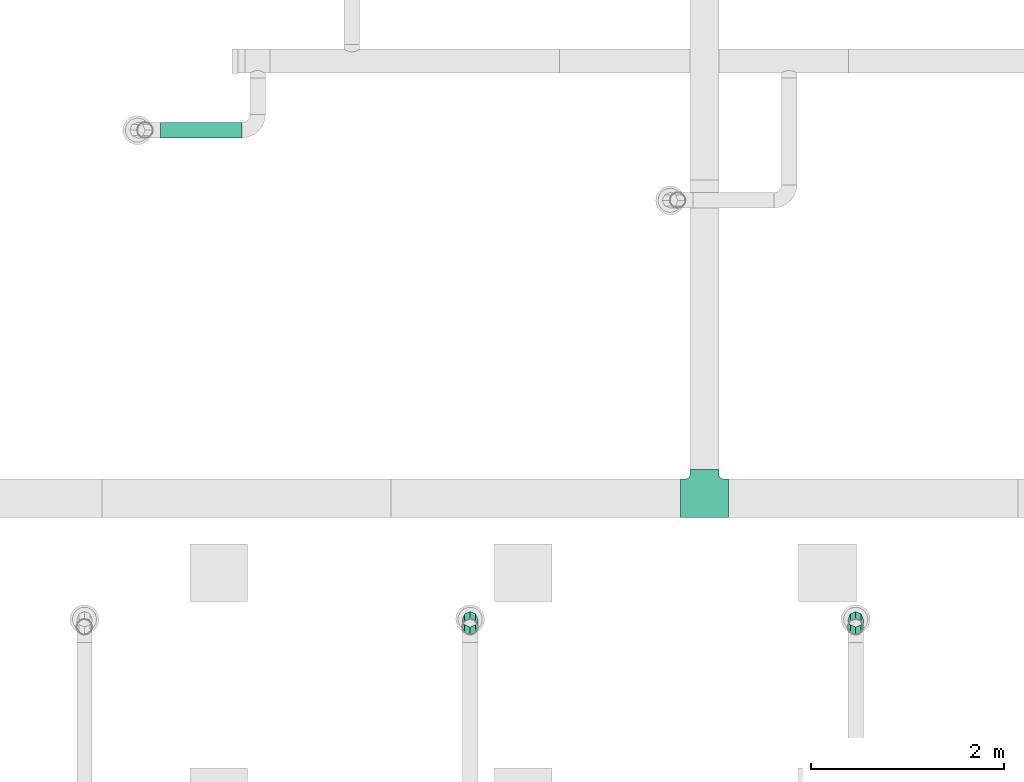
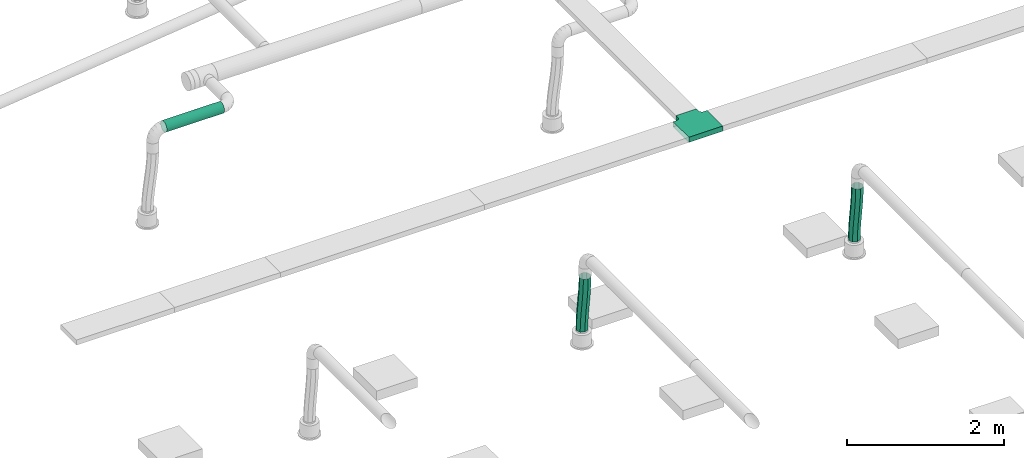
# One storey, part 238 of 374: 3 flow segments, 1 distribution element.
"""IFC2X3 building model written with IfcOpenShell, lengths in metres."""

from ifc_helpers import new_model, si_unit, direction, origin, place, context, subcontext, project, spatial, open_shell, surface_model, source, transform, mapped, element, save


model = new_model("IFC2X3")

# Units and contexts
model_context = context("Model", 3, precision=1e-05, world=origin(), true_north=direction((-0.4480736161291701, 0.8939966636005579)))
body_context = subcontext(model_context, "Body", "Model", "MODEL_VIEW")
ifc_project = project(units=[si_unit("LENGTHUNIT", "METRE"), si_unit("AREAUNIT", "SQUARE_METRE"), si_unit("VOLUMEUNIT", "CUBIC_METRE"), si_unit("PLANEANGLEUNIT", "RADIAN"), si_unit("THERMODYNAMICTEMPERATUREUNIT", "KELVIN"), si_unit("MASSUNIT", "GRAM", prefix="KILO"), si_unit("TIMEUNIT", "SECOND")], contexts=[model_context])

# Site, building, storey
site_placement = place(None, origin())
site = spatial("IfcSite", under=ifc_project, at=site_placement, Name="Site 1", CompositionType="ELEMENT")
building_placement = place(site_placement, origin())
building = spatial("IfcBuilding", under=site, at=building_placement, Name="Undefined", CompositionType="ELEMENT")
storey_placement = place(building_placement, origin())
storey = spatial("IfcBuildingStorey", under=building, at=storey_placement, Name="Rez de chauss\x8ee", CompositionType="ELEMENT", Elevation=0.0)

# Flow segments
shared_shape_1 = source(origin(), body_context, "Body", "SurfaceModel", [
    surface_model("IfcFaceBasedSurfaceModel", [(0.0942570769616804, 1.776356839e-15, 1.304512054e-15), (0.05356602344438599, 0.04575228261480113, 1.304512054e-15), (0.0, 0.0, 0.0), (0.03894014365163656, -0.04725143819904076, -1.1508330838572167e-06), (-0.05541274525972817, -0.04404153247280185, 0.0010358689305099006), (-0.01799365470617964, -0.0925064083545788, 0.0010617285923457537), (-0.11243304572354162, -0.08679100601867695, 0.002911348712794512), (-0.07622094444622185, -0.13616420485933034, 0.002975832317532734), (-0.17075714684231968, -0.12862219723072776, 0.005426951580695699), (-0.1354183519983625, -0.1786241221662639, 0.00552835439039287), (-0.23007333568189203, -0.16991460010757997, 0.008379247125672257), (-0.19526250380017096, -0.22028545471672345, 0.008506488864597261), (-0.290064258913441, -0.21105507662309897, 0.011560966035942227), (-0.2554300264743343, -0.2615474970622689, 0.01169742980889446), (-0.35040838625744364, -0.2524386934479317, 0.014761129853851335), (-0.3155975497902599, -0.3028095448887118, 0.014888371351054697), (-0.4107805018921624, -0.29446896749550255, 0.01776510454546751), (-0.3754417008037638, -0.344470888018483, 0.017866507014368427), (-0.4708512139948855, -0.337557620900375, 0.02035454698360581), (-0.4346391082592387, -0.3869308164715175, 0.02041903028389), (-0.5302854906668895, -0.3821237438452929, 0.02230727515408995), (-0.4928664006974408, -0.43058862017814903, 0.02233313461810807), (-0.5887403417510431, -0.42859214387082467, 0.02339716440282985), (-0.549800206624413, -0.4758435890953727, 0.02339601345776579), (-0.645808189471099, -0.47734271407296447, 0.023394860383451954), (-0.6051171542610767, -0.5230950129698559, 0.02339486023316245), (0.02506153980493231, 0.07834277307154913, -0.04329419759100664), (-0.027779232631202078, 0.03321146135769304, -0.043293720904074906), (-0.08256193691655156, -0.01032744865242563, -0.04226904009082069), (-0.13908228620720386, -0.05270068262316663, -0.04040955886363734), (-0.19704465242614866, -0.09427144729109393, -0.03790924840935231), (-0.256142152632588, -0.13541103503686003, -0.034967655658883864), (-0.31605992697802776, -0.17650115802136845, -0.031789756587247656), (-0.37647720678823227, -0.217935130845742, -0.028585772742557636), (-0.43706801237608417, -0.2601182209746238, -0.02557109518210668), (-0.49750045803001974, -0.30346729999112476, -0.022966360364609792), (-0.557434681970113, -0.3484096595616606, -0.020997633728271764), (-0.6165195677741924, -0.39538067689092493, -0.01989655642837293), (-0.6743126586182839, -0.44475221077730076, -0.01989933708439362), (0.025441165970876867, 0.07868040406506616, -0.10452143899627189), (-0.028124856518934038, 0.032928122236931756, -0.10452143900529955), (-0.0835376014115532, -0.011113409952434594, -0.10348557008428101), (-0.14055790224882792, -0.0538628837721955, -0.10161009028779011), (-0.1988820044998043, -0.09569407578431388, -0.09909448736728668), (-0.2581981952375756, -0.1369864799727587, -0.0961421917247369), (-0.31818912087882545, -0.17812695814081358, -0.09296047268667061), (-0.37853324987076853, -0.21951057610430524, -0.08976030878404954), (-0.43890536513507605, -0.26154084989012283, -0.08675633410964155), (-0.49897607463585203, -0.3046295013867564, -0.08416689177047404), (-0.5584103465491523, -0.349195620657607, -0.08221416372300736), (-0.6168651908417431, -0.39566401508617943, -0.08112427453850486), (-0.6739330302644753, -0.4444145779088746, -0.08112657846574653), (0.054482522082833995, 0.04656739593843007, -0.14781563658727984), (-0.0008344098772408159, -0.0006840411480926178, -0.14781678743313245), (-0.05776820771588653, -0.0459390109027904, -0.14675390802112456), (-0.11599549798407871, -0.08959680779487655, -0.14483980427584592), (-0.17519290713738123, -0.13205672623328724, -0.14228728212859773), (-0.23503706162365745, -0.1737180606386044, -0.13930914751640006), (-0.2952045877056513, -0.2149801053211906, -0.13611820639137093), (-0.35537211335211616, -0.25624215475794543, -0.13292726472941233), (-0.4152162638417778, -0.2979034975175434, -0.12994912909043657), (-0.4744136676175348, -0.3403634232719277, -0.12739660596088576), (-0.5326409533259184, -0.3840212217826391, -0.12548250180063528), (-0.5895747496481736, -0.42927618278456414, -0.12441962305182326), (-0.6448916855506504, -0.47652759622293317, -0.12442077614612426), (0.0951735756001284, 0.0008151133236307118, -0.14781563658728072), (0.038105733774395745, -0.04793547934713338, -0.14781793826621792), (-0.020349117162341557, -0.09440388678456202, -0.14672804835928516), (-0.07978339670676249, -0.1389700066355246, -0.14477532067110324), (-0.13985411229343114, -0.18205865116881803, -0.14218587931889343), (-0.20022622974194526, -0.224088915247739, -0.13918190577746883), (-0.2605703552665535, -0.26547252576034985, -0.1359817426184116), (-0.3205612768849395, -0.3066130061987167, -0.13280002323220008), (-0.37987746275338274, -0.34790541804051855, -0.129847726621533), (-0.43820156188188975, -0.38973661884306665, -0.12733212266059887), (-0.4952218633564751, -0.43248609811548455, -0.12545664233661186), (-0.5506346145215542, -0.4765276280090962, -0.12442077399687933), (-0.6042006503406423, -0.5222798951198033, -0.1244207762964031), (0.1236780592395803, -0.03177537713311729, -0.10452143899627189), (0.06588496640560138, -0.0811469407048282, -0.1045242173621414), (0.006800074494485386, -0.12811797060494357, -0.10342313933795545), (-0.05313415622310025, -0.1730603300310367, -0.10145441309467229), (-0.11356660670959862, -0.21640940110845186, -0.0988496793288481), (-0.17415741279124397, -0.2585924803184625, -0.0958350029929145), (-0.2345746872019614, -0.3000264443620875, -0.09263101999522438), (-0.29449245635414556, -0.34111656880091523, -0.08945312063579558), (-0.35358995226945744, -0.38225616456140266, -0.08651152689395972), (-0.4115523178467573, -0.4238269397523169, -0.08401121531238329), (-0.46807267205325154, -0.4662001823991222, -0.0821517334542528), (-0.5228553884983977, -0.5097390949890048, -0.08112705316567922), (-0.5756961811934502, -0.5548703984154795, -0.08112657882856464), (0.12329843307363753, -0.03211300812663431, -0.04329419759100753), (0.06623059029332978, -0.08086360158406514, -0.04329649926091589), (0.007775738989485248, -0.12733200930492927, -0.04220660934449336), (-0.0516585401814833, -0.17189812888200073, -0.04025388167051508), (-0.11172925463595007, -0.21498677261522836, -0.037664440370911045), (-0.1721013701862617, -0.25701703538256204, -0.03466046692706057), (-0.23244549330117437, -0.2984006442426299, -0.031460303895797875), (-0.2924364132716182, -0.3395411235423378, -0.028278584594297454), (-0.351752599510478, -0.3808335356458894, -0.025326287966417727), (-0.4100767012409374, -0.42266473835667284, -0.022810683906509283), (-0.46709700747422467, -0.46541422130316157, -0.020935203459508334), (-0.5225097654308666, -0.5094557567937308, -0.01989933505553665), (-0.5760758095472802, -0.5552080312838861, -0.019899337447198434)], [open_shell([[[0, 1, 2]], [[2, 3, 0]], [[3, 2, 4]], [[4, 5, 3]], [[5, 4, 6]], [[6, 7, 5]], [[7, 6, 8]], [[8, 9, 7]], [[9, 8, 10]], [[10, 11, 9]], [[11, 10, 12]], [[12, 13, 11]], [[13, 12, 14]], [[14, 15, 13]], [[15, 14, 16]], [[16, 17, 15]], [[17, 16, 18]], [[18, 19, 17]], [[19, 18, 20]], [[20, 21, 19]], [[21, 20, 22]], [[22, 23, 21]], [[23, 22, 24]], [[24, 25, 23]], [[1, 26, 27]], [[27, 2, 1]], [[2, 27, 28]], [[28, 4, 2]], [[4, 28, 29]], [[29, 6, 4]], [[6, 29, 30]], [[30, 8, 6]], [[8, 30, 31]], [[31, 10, 8]], [[10, 31, 32]], [[32, 12, 10]], [[12, 32, 33]], [[33, 14, 12]], [[14, 33, 34]], [[34, 16, 14]], [[16, 34, 35]], [[35, 18, 16]], [[18, 35, 36]], [[36, 20, 18]], [[20, 36, 37]], [[37, 22, 20]], [[22, 37, 38]], [[38, 24, 22]], [[26, 39, 40]], [[40, 27, 26]], [[27, 40, 41]], [[41, 28, 27]], [[28, 41, 42]], [[42, 29, 28]], [[29, 42, 43]], [[43, 30, 29]], [[30, 43, 44]], [[44, 31, 30]], [[31, 44, 45]], [[45, 32, 31]], [[32, 45, 46]], [[46, 33, 32]], [[33, 46, 47]], [[47, 34, 33]], [[34, 47, 48]], [[48, 35, 34]], [[35, 48, 49]], [[49, 36, 35]], [[36, 49, 50]], [[50, 37, 36]], [[37, 50, 51]], [[51, 38, 37]], [[39, 52, 53]], [[53, 40, 39]], [[40, 53, 54]], [[54, 41, 40]], [[41, 54, 55]], [[55, 42, 41]], [[42, 55, 56]], [[56, 43, 42]], [[43, 56, 57]], [[57, 44, 43]], [[44, 57, 58]], [[58, 45, 44]], [[45, 58, 59]], [[59, 46, 45]], [[46, 59, 60]], [[60, 47, 46]], [[47, 60, 61]], [[61, 48, 47]], [[48, 61, 62]], [[62, 49, 48]], [[49, 62, 63]], [[63, 50, 49]], [[50, 63, 64]], [[64, 51, 50]], [[52, 65, 66]], [[66, 53, 52]], [[53, 66, 67]], [[67, 54, 53]], [[54, 67, 68]], [[68, 55, 54]], [[55, 68, 69]], [[69, 56, 55]], [[56, 69, 70]], [[70, 57, 56]], [[57, 70, 71]], [[71, 58, 57]], [[58, 71, 72]], [[72, 59, 58]], [[59, 72, 73]], [[73, 60, 59]], [[60, 73, 74]], [[74, 61, 60]], [[61, 74, 75]], [[75, 62, 61]], [[62, 75, 76]], [[76, 63, 62]], [[63, 76, 77]], [[77, 64, 63]], [[65, 78, 79]], [[79, 66, 65]], [[66, 79, 80]], [[80, 67, 66]], [[67, 80, 81]], [[81, 68, 67]], [[68, 81, 82]], [[82, 69, 68]], [[69, 82, 83]], [[83, 70, 69]], [[70, 83, 84]], [[84, 71, 70]], [[71, 84, 85]], [[85, 72, 71]], [[72, 85, 86]], [[86, 73, 72]], [[73, 86, 87]], [[87, 74, 73]], [[74, 87, 88]], [[88, 75, 74]], [[75, 88, 89]], [[89, 76, 75]], [[76, 89, 90]], [[90, 77, 76]], [[78, 91, 92]], [[92, 79, 78]], [[79, 92, 93]], [[93, 80, 79]], [[80, 93, 94]], [[94, 81, 80]], [[81, 94, 95]], [[95, 82, 81]], [[82, 95, 96]], [[96, 83, 82]], [[83, 96, 97]], [[97, 84, 83]], [[84, 97, 98]], [[98, 85, 84]], [[85, 98, 99]], [[99, 86, 85]], [[86, 99, 100]], [[100, 87, 86]], [[87, 100, 101]], [[101, 88, 87]], [[88, 101, 102]], [[102, 89, 88]], [[89, 102, 103]], [[103, 90, 89]], [[91, 0, 3]], [[3, 92, 91]], [[92, 3, 5]], [[5, 93, 92]], [[93, 5, 7]], [[7, 94, 93]], [[94, 7, 9]], [[9, 95, 94]], [[95, 9, 11]], [[11, 96, 95]], [[96, 11, 13]], [[13, 97, 96]], [[97, 13, 15]], [[15, 98, 97]], [[98, 15, 17]], [[17, 99, 98]], [[99, 17, 19]], [[19, 100, 99]], [[100, 19, 21]], [[21, 101, 100]], [[101, 21, 23]], [[23, 102, 101]], [[102, 23, 25]], [[25, 103, 102]]])]),
])
flow_segment_1_placement = place(storey_placement, origin())
element("IfcFlowSegment", 1, at=flow_segment_1_placement, inside=storey, Name="Tube flexible", ObjectType="Tube flexible", context=body_context, shape_type="MappedRepresentation", body=[
    mapped(shared_shape_1, transform((6.923484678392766, 16.933392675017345, 3.4095708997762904), x_axis=(-0.2485909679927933, -0.6163532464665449, 0.747202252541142), y_axis=(0.2910462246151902, 0.688238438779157, 0.6645449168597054), z_axis=(-0.9238477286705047, 0.38267025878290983, 0.008297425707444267))),
])
shared_shape_2 = source(origin(), body_context, "Body", "SurfaceModel", [
    surface_model("IfcFaceBasedSurfaceModel", [(0.09425707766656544, 0.0, 1.776356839e-15), (0.05356602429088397, 0.04575228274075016, 8.8817842e-16), (0.0, 0.0, 0.0), (0.03894014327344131, -0.04725143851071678, -1.1508134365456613e-06), (-0.055412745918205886, -0.04404153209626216, 0.0010358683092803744), (-0.017993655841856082, -0.09250640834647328, 0.001061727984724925), (-0.11243304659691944, -0.08679100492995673, 0.002911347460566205), (-0.07622094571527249, -0.13616420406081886, 0.002975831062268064), (-0.1707571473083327, -0.12862219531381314, 0.005426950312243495), (-0.1354183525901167, -0.17862412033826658, 0.005528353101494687), (-0.23007333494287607, -0.16991459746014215, 0.008379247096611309), (-0.19526250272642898, -0.22028545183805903, 0.00850648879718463), (-0.29006425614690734, -0.211055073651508, 0.011560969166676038), (-0.2554300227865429, -0.26154749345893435, 0.01169743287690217), (-0.35040838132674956, -0.2524386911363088, 0.01476113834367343), (-0.3155975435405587, -0.30280954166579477, 0.014888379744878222), (-0.41078049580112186, -0.2944689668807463, 0.017765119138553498), (-0.3754416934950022, -0.3444708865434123, 0.017866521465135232), (-0.47085120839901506, -0.33755762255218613, 0.020354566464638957), (-0.4346391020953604, -0.386930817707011, 0.020419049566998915), (-0.5302854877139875, -0.3821237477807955, 0.022307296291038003), (-0.49286639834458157, -0.43058862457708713, 0.02233315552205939), (-0.5887403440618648, -0.42859214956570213, 0.023397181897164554), (-0.5498002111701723, -0.4758435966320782, 0.02339603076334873), (-0.6458081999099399, -0.4773427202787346, 0.023394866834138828), (-0.6051171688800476, -0.5230950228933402, 0.023394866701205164), (0.02506154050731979, 0.07834277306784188, -0.04329419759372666), (-0.02777923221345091, 0.033211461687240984, -0.04329372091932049), (-0.08256193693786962, -0.010327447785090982, -0.0422690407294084), (-0.13908228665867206, -0.05270068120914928, -0.04040956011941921), (-0.19704465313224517, -0.0942714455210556, -0.03790924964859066), (-0.25614215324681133, -0.13541103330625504, -0.03496765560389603), (-0.31605992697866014, -0.1765011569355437, -0.03178975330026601), (-0.376477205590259, -0.21793513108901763, -0.028585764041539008), (-0.4370680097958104, -0.2601182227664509, -0.025571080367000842), (-0.4975004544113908, -0.3034673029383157, -0.0229663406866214), (-0.5574346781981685, -0.3484096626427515, -0.020997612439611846), (-0.6165195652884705, -0.39538067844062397, -0.019896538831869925), (-0.6743126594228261, -0.4447522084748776, -0.019899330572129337), (0.025441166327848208, 0.07868040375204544, -0.10452143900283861), (-0.028124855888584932, 0.03292812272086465, -0.10452143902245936), (-0.08353760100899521, -0.011113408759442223, -0.10348557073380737), (-0.140557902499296, -0.05386288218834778, -0.10161009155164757), (-0.1988820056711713, -0.09569407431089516, -0.09909448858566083), (-0.25819819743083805, -0.13698647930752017, -0.09614219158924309), (-0.31818912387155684, -0.17812695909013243, -0.09296046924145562), (-0.378533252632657, -0.2195105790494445, -0.08976029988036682), (-0.43890536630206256, -0.2615408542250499, -0.08675631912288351), (-0.49897607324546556, -0.3046295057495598, -0.08416687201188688), (-0.558410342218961, -0.3491956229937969, -0.08221414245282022), (-0.6168651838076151, -0.39566401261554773, -0.08112425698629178), (-0.6739330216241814, -0.44441456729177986, -0.08112657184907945), (0.054482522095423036, 0.04656739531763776, -0.14781563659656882), (-0.0008344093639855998, -0.0006840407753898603, -0.1478167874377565), (-0.05776820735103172, -0.04593900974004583, -0.14675390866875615), (-0.1159954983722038, -0.08959680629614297, -0.14483980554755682), (-0.17519290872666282, -0.13205672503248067, -0.14228728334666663), (-0.2350370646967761, -0.17371806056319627, -0.13930914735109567), (-0.29520459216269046, -0.21498010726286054, -0.13611820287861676), (-0.3553721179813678, -0.2562421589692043, -0.13292725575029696), (-0.4152162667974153, -0.29790350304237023, -0.12994911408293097), (-0.47441366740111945, -0.3403634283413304, -0.12739658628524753), (-0.5326409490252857, -0.38402122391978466, -0.12548248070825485), (-0.5895747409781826, -0.4292761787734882, -0.12441960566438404), (-0.6448916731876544, -0.47652758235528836, -0.12442076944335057), (0.0951735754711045, 0.0008151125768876, -0.14781563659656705), (0.03810573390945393, -0.047935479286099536, -0.14781793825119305), (-0.020349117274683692, -0.09440388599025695, -0.14672804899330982), (-0.07978339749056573, -0.13897000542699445, -0.14477532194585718), (-0.1398541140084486, -0.18205865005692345, -0.1421858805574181), (-0.20022623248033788, -0.2240889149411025, -0.13918190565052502), (-0.2605703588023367, -0.2654725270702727, -0.13598173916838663), (-0.32056128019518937, -0.306613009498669, -0.13280001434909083), (-0.37987746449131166, -0.3479054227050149, -0.12984771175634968), (-0.4382015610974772, -0.389736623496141, -0.12733210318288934), (-0.49522185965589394, -0.4324861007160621, -0.12545662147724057), (-0.550634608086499, -0.47652762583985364, -0.12442075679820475), (-0.604200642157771, -0.5222798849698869, -0.12442076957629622), (0.12367805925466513, -0.03177537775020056, -0.10452143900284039), (0.06588496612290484, -0.08114694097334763, -0.10452421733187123), (0.006800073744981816, -0.12811797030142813, -0.10342313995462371), (-0.053134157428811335, -0.17306032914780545, -0.10145441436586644), (-0.1135666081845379, -0.21640939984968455, -0.09884968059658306), (-0.17415741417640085, -0.25859247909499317, -0.09583500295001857), (-0.23457468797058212, -0.300026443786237, -0.09263101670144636), (-0.2944924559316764, -0.34111656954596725, -0.0894531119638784), (-0.35358995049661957, -0.38225616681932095, -0.08651151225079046), (-0.4115523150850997, -0.423826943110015, -0.08401119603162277), (-0.4680726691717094, -0.4662001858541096, -0.08215171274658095), (-0.5228553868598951, -0.5097390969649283, -0.08112703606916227), (-0.5756961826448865, -0.5548703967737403, -0.08112657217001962), (0.12329843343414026, -0.03211300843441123, -0.043294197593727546), (0.06623058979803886, -0.08086360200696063, -0.04329649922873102), (0.00777573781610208, -0.12733200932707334, -0.04220660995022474), (-0.05165854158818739, -0.17189812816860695, -0.04025388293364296), (-0.11172925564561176, -0.21498677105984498, -0.037664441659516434), (-0.17210136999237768, -0.2570170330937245, -0.03466046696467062), (-0.2324454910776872, -0.29840064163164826, -0.03146030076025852), (-0.29243640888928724, -0.33954112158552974, -0.028278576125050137), (-0.35175259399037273, -0.38083353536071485, -0.025326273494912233), (-0.4100766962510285, -0.4226647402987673, -0.02281066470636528), (-0.46709700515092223, -0.4654142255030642, -0.020935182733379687), (-0.522509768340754, -0.509455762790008, -0.01989931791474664), (-0.5760758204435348, -0.555208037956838, -0.01989933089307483)], [open_shell([[[0, 1, 2]], [[2, 3, 0]], [[3, 2, 4]], [[4, 5, 3]], [[5, 4, 6]], [[6, 7, 5]], [[7, 6, 8]], [[8, 9, 7]], [[9, 8, 10]], [[10, 11, 9]], [[11, 10, 12]], [[12, 13, 11]], [[13, 12, 14]], [[14, 15, 13]], [[15, 14, 16]], [[16, 17, 15]], [[17, 16, 18]], [[18, 19, 17]], [[19, 18, 20]], [[20, 21, 19]], [[21, 20, 22]], [[22, 23, 21]], [[23, 22, 24]], [[24, 25, 23]], [[1, 26, 27]], [[27, 2, 1]], [[2, 27, 28]], [[28, 4, 2]], [[4, 28, 29]], [[29, 6, 4]], [[6, 29, 30]], [[30, 8, 6]], [[8, 30, 31]], [[31, 10, 8]], [[10, 31, 32]], [[32, 12, 10]], [[12, 32, 33]], [[33, 14, 12]], [[14, 33, 34]], [[34, 16, 14]], [[16, 34, 35]], [[35, 18, 16]], [[18, 35, 36]], [[36, 20, 18]], [[20, 36, 37]], [[37, 22, 20]], [[22, 37, 38]], [[38, 24, 22]], [[26, 39, 40]], [[40, 27, 26]], [[27, 40, 41]], [[41, 28, 27]], [[28, 41, 42]], [[42, 29, 28]], [[29, 42, 43]], [[43, 30, 29]], [[30, 43, 44]], [[44, 31, 30]], [[31, 44, 45]], [[45, 32, 31]], [[32, 45, 46]], [[46, 33, 32]], [[33, 46, 47]], [[47, 34, 33]], [[34, 47, 48]], [[48, 35, 34]], [[35, 48, 49]], [[49, 36, 35]], [[36, 49, 50]], [[50, 37, 36]], [[37, 50, 51]], [[51, 38, 37]], [[39, 52, 53]], [[53, 40, 39]], [[40, 53, 54]], [[54, 41, 40]], [[41, 54, 55]], [[55, 42, 41]], [[42, 55, 56]], [[56, 43, 42]], [[43, 56, 57]], [[57, 44, 43]], [[44, 57, 58]], [[58, 45, 44]], [[45, 58, 59]], [[59, 46, 45]], [[46, 59, 60]], [[60, 47, 46]], [[47, 60, 61]], [[61, 48, 47]], [[48, 61, 62]], [[62, 49, 48]], [[49, 62, 63]], [[63, 50, 49]], [[50, 63, 64]], [[64, 51, 50]], [[52, 65, 66]], [[66, 53, 52]], [[53, 66, 67]], [[67, 54, 53]], [[54, 67, 68]], [[68, 55, 54]], [[55, 68, 69]], [[69, 56, 55]], [[56, 69, 70]], [[70, 57, 56]], [[57, 70, 71]], [[71, 58, 57]], [[58, 71, 72]], [[72, 59, 58]], [[59, 72, 73]], [[73, 60, 59]], [[60, 73, 74]], [[74, 61, 60]], [[61, 74, 75]], [[75, 62, 61]], [[62, 75, 76]], [[76, 63, 62]], [[63, 76, 77]], [[77, 64, 63]], [[65, 78, 79]], [[79, 66, 65]], [[66, 79, 80]], [[80, 67, 66]], [[67, 80, 81]], [[81, 68, 67]], [[68, 81, 82]], [[82, 69, 68]], [[69, 82, 83]], [[83, 70, 69]], [[70, 83, 84]], [[84, 71, 70]], [[71, 84, 85]], [[85, 72, 71]], [[72, 85, 86]], [[86, 73, 72]], [[73, 86, 87]], [[87, 74, 73]], [[74, 87, 88]], [[88, 75, 74]], [[75, 88, 89]], [[89, 76, 75]], [[76, 89, 90]], [[90, 77, 76]], [[78, 91, 92]], [[92, 79, 78]], [[79, 92, 93]], [[93, 80, 79]], [[80, 93, 94]], [[94, 81, 80]], [[81, 94, 95]], [[95, 82, 81]], [[82, 95, 96]], [[96, 83, 82]], [[83, 96, 97]], [[97, 84, 83]], [[84, 97, 98]], [[98, 85, 84]], [[85, 98, 99]], [[99, 86, 85]], [[86, 99, 100]], [[100, 87, 86]], [[87, 100, 101]], [[101, 88, 87]], [[88, 101, 102]], [[102, 89, 88]], [[89, 102, 103]], [[103, 90, 89]], [[91, 0, 3]], [[3, 92, 91]], [[92, 3, 5]], [[5, 93, 92]], [[93, 5, 7]], [[7, 94, 93]], [[94, 7, 9]], [[9, 95, 94]], [[95, 9, 11]], [[11, 96, 95]], [[96, 11, 13]], [[13, 97, 96]], [[97, 13, 15]], [[15, 98, 97]], [[98, 15, 17]], [[17, 99, 98]], [[99, 17, 19]], [[19, 100, 99]], [[100, 19, 21]], [[21, 101, 100]], [[101, 21, 23]], [[23, 102, 101]], [[102, 23, 25]], [[25, 103, 102]]])]),
])
flow_segment_2_placement = place(storey_placement, origin())
element("IfcFlowSegment", 2, at=flow_segment_2_placement, inside=storey, Name="Tube flexible", ObjectType="Tube flexible", context=body_context, shape_type="MappedRepresentation", body=[
    mapped(shared_shape_2, transform((10.923484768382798, 16.933392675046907, 3.409570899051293), x_axis=(-0.2485909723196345, -0.6163532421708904, 0.7472022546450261), y_axis=(0.29104622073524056, 0.6882384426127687, 0.6645449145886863), z_axis=(-0.9238477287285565, 0.3826702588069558, 0.008297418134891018))),
])

# Distribution element
shared_shape_3 = source(origin(), body_context, "Body", "SurfaceModel", [
    surface_model("IfcFaceBasedSurfaceModel", [(0.0, 0.049999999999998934, 0.0), (0.0, 0.0, 0.0), (0.08000000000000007, 0.0, 5.82867088e-16), (0.08000000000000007, 0.04999999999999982, 0.0), (0.08000000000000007, -0.04999999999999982, 0.04999999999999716), (0.08000000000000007, -0.04829629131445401, 0.03705904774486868), (0.0, -0.04829629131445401, 0.03705904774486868), (0.0, -0.04999999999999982, 0.04999999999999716), (0.08000000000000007, -0.0433012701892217, 0.02499999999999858), (0.0, -0.0433012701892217, 0.02499999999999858), (0.08000000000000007, -0.035355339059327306, 0.014644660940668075), (0.0, -0.035355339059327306, 0.014644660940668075), (0.08000000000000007, -0.025000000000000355, 0.006698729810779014), (0.0, -0.025000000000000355, 0.006698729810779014), (0.08000000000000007, -0.012940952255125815, 0.001703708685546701), (0.0, -0.012940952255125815, 0.001703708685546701), (0.0, -0.04999999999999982, 0.10000000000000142), (0.08000000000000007, -0.04999999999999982, 0.10000000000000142), (0.0, -0.34999999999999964, 0.09999999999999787), (0.0, -0.34999999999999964, 0.05000000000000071), (0.08000000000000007, -0.34999999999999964, 0.05000000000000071), (0.08000000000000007, -0.34999999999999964, 0.09999999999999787), (0.08000000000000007, -0.3999999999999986, 0.0), (0.08000000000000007, -0.38705904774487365, 0.0017037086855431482), (0.0, -0.38705904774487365, 0.0017037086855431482), (0.0, -0.3999999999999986, 0.0), (0.08000000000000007, -0.375, 0.006698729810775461), (0.0, -0.375, 0.006698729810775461), (0.08000000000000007, -0.3646446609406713, 0.014644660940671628), (0.0, -0.3646446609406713, 0.014644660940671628), (0.08000000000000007, -0.3566987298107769, 0.02499999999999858), (0.0, -0.3566987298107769, 0.02499999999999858), (0.08000000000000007, -0.35170370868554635, 0.037059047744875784), (0.0, -0.35170370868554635, 0.037059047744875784), (0.0, -0.4499999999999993, 0.0), (0.08000000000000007, -0.4499999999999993, 0.0), (0.0, -0.4499999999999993, -0.40000000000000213), (0.0, 0.04999999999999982, -0.3999999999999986), (0.08000000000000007, 0.04999999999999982, -0.3999999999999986), (0.08000000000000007, -0.4499999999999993, -0.40000000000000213)], [open_shell([[[0, 1, 2, 3]], [[4, 5, 6, 7]], [[5, 8, 9, 6]], [[8, 10, 11, 9]], [[10, 12, 13, 11]], [[12, 14, 15, 13]], [[14, 2, 1, 15]], [[7, 16, 17, 4]], [[18, 19, 20, 21]], [[22, 23, 24, 25]], [[23, 26, 27, 24]], [[26, 28, 29, 27]], [[28, 30, 31, 29]], [[30, 32, 33, 31]], [[32, 20, 19, 33]], [[25, 34, 35, 22]], [[36, 37, 38, 39]], [[39, 38, 2]], [[39, 2, 14]], [[39, 14, 12]], [[39, 12, 10]], [[39, 10, 8]], [[39, 8, 5]], [[39, 5, 4]], [[39, 4, 32]], [[39, 32, 30]], [[39, 30, 28]], [[39, 28, 26]], [[39, 26, 23]], [[39, 23, 22]], [[39, 22, 35]], [[4, 17, 21]], [[4, 21, 20]], [[4, 20, 32]], [[2, 38, 3]], [[1, 37, 36]], [[15, 1, 36]], [[13, 15, 36]], [[11, 13, 36]], [[9, 11, 36]], [[6, 9, 36]], [[7, 6, 36]], [[33, 7, 36]], [[31, 33, 36]], [[29, 31, 36]], [[27, 29, 36]], [[24, 27, 36]], [[25, 24, 36]], [[34, 25, 36]], [[18, 16, 7]], [[19, 18, 7]], [[33, 19, 7]], [[0, 37, 1]]])]),
])
distribution_element_placement = place(storey_placement, origin())
element("IfcDistributionElement", 3, at=distribution_element_placement, inside=storey, Name="Pièce en té", ObjectType="Pièce en té", context=body_context, shape_type="MappedRepresentation", body=[
    mapped(shared_shape_3, transform((9.210999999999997, 18.411, 4.18), x_axis=(0.0, 0.0, -1.0), y_axis=(-1.0, 0.0, 0.0), z_axis=(0.0, 1.0, 0.0))),
])

# Flow segment
shared_shape_4 = source(origin(), body_context, "Body", "SurfaceModel", [
    surface_model("IfcFaceBasedSurfaceModel", [(0.0, 0.020884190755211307, 0.0), (0.0, 0.0, 0.0), (0.846744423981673, 0.0, 0.0), (0.846744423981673, 0.0208841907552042, 0.0), (0.0, -0.020172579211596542, -0.005405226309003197), (0.846744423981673, -0.0201725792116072, -0.005405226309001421), (0.0, -0.03825881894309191, -0.015847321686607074), (0.846744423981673, -0.03825881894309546, -0.015847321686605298), (0.0, -0.05302617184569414, -0.0306146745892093), (0.846744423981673, -0.05302617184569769, -0.030614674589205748), (0.0, -0.06346826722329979, -0.04870091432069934), (0.846744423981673, -0.06346826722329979, -0.048700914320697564), (0.0, -0.06887349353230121, -0.06887349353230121), (0.846744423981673, -0.06887349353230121, -0.06887349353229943), (0.0, -0.06887349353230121, -0.08975768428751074), (0.846744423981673, -0.06887349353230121, -0.08975768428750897), (0.0, -0.06346826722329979, -0.10993026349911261), (0.846744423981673, -0.06346826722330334, -0.10993026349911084), (0.0, -0.05302617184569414, -0.12801650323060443), (0.846744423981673, -0.05302617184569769, -0.12801650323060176), (0.0, -0.038258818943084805, -0.14278385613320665), (0.846744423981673, -0.038258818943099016, -0.1427838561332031), (0.0, -0.020172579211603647, -0.15322595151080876), (0.846744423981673, -0.020172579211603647, -0.15322595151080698), (0.0, 7.105427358e-15, -0.15863117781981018), (0.846744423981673, -3.552713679e-15, -0.1586311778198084), (0.0, 0.020884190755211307, -0.15863117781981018), (0.846744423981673, 0.020884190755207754, -0.1586311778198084), (0.0, 0.04105676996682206, -0.15322595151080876), (0.846744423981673, 0.04105676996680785, -0.15322595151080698), (0.0, 0.05914300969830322, -0.1427838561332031), (0.846744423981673, 0.05914300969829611, -0.1427838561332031), (0.0, 0.07391036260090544, -0.12801650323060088), (0.846744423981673, 0.07391036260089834, -0.12801650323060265), (0.0, 0.0843524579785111, -0.10993026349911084), (0.846744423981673, 0.08435245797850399, -0.10993026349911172), (0.0, 0.08975768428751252, -0.08975768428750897), (0.846744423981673, 0.08975768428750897, -0.08975768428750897), (0.0, 0.08975768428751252, -0.06887349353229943), (0.846744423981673, 0.08975768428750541, -0.06887349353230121), (0.0, 0.0843524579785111, -0.048700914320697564), (0.846744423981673, 0.08435245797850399, -0.048700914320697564), (0.0, 0.07391036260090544, -0.030614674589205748), (0.846744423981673, 0.07391036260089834, -0.030614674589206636), (0.0, 0.05914300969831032, -0.015847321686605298), (0.846744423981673, 0.059143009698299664, -0.015847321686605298), (0.0, 0.04105676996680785, -0.005405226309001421), (0.846744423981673, 0.0410567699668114, -0.005405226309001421)], [open_shell([[[0, 1, 2, 3]], [[1, 4, 5, 2]], [[4, 6, 7, 5]], [[6, 8, 9, 7]], [[8, 10, 11, 9]], [[10, 12, 13, 11]], [[12, 14, 15, 13]], [[14, 16, 17, 15]], [[16, 18, 19, 17]], [[18, 20, 21, 19]], [[20, 22, 23, 21]], [[22, 24, 25, 23]], [[24, 26, 27, 25]], [[26, 28, 29, 27]], [[28, 30, 31, 29]], [[30, 32, 33, 31]], [[32, 34, 35, 33]], [[34, 36, 37, 35]], [[36, 38, 39, 37]], [[38, 40, 41, 39]], [[40, 42, 43, 41]], [[42, 44, 45, 43]], [[44, 46, 47, 45]], [[46, 0, 3, 47]]])]),
])
flow_segment_3_placement = place(storey_placement, origin())
element("IfcFlowSegment", 4, at=flow_segment_3_placement, inside=storey, Name="Tube", ObjectType="Tube", context=body_context, shape_type="MappedRepresentation", body=[
    mapped(shared_shape_4, transform((4.616000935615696, 22.049942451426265, 3.877274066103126), x_axis=(-1.0, 0.0, 0.0), y_axis=(7.266545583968e-12, -0.9914448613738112, 0.13052619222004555), z_axis=(0.0, 0.13052619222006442, 0.9914448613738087))),
])

save(model, "model.ifc")
